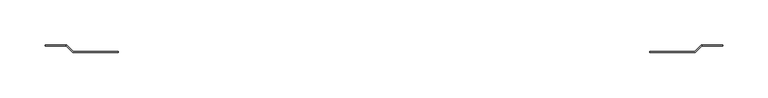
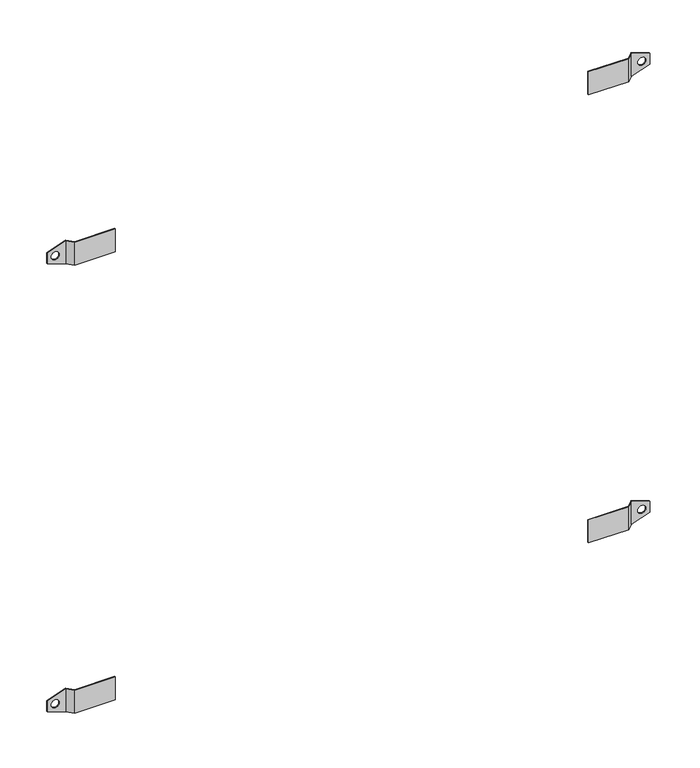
"""IFC4 building model written with IfcOpenShell, lengths in millimetres: electric distribution board geometry, DKC_Комплект кронштейнов для настенного крепления фиберглас : DKC_Комплект кронштейнов для настенного крепления фиберглас."""

from ifc_helpers import new_model, si_unit, frame, origin, place, context, project, spatial, polyline, circle_curve, source, transform, mapped, element, save
from ifc_brep_helpers import plane_surface, revolved_surface, advanced_brep


def electric_distribution_board_e5e5e27e(model_context):
    return source(origin(), model_context, "Body", "AdvancedBrep", [
        advanced_brep(
        [(342.5, 0.0, 0.0), (292.5, 0.0, 0.0), (292.5, 1.0, 0.0), (342.0857864, 1.0, 0.0), (349.1568542, 8.0710678, 0.0), (349.5710678, 8.0710678, 0.0), (349.5710678, 7.0710678, 0.0), (342.5, 0.0, 30.0), (349.5710678, 7.0710678, 30.0), (349.5710678, 8.0710678, 30.0), (349.1568542, 8.0710678, 30.0), (342.0857864, 1.0, 30.0), (292.5, 1.0, 30.0), (292.5, 0.0, 30.0), (372.5, 8.0710678, 22.1049355), (372.5, 8.0710678, 7.8950645), (362.5, 8.0710678, 20.0), (362.5, 8.0710678, 10.0), (372.5, 7.0710678, 22.1049355), (372.5, 7.0710678, 7.8950645), (362.5, 7.0710678, 10.0), (362.5, 7.0710678, 20.0)],
        [
            (0, 1),
            (1, 2),
            (2, 3),
            (3, 4),
            (4, 5),
            (5, 6),
            (6, 0),
            (7, 8),
            (8, 9),
            (9, 10),
            (10, 11),
            (11, 12),
            (12, 13),
            (13, 7),
            (0, 7),
            (13, 1),
            (12, 2),
            (11, 3),
            (10, 4),
            (9, 14),
            (14, 15),
            (15, 5),
            (16, 17, circle_curve(frame((362.5, 8.0710678, 15.0), z_axis=(0.0, -1.0, 0.0), x_axis=(0.0, 0.0, -1.0)), 5.0)),
            (17, 16, circle_curve(frame((362.5, 8.0710678, 15.0), z_axis=(0.0, -1.0, 0.0), x_axis=(0.0, 0.0, -1.0)), 5.0)),
            (14, 18),
            (18, 19),
            (19, 15),
            (8, 6),
            (6, 19),
            (18, 8),
            (20, 21, circle_curve(frame((362.5, 7.0710678, 15.0), z_axis=(0.0, 1.0, 0.0), x_axis=(0.0, 0.0, -1.0)), 5.0)),
            (21, 20, circle_curve(frame((362.5, 7.0710678, 15.0), z_axis=(0.0, 1.0, 0.0), x_axis=(0.0, 0.0, -1.0)), 5.0)),
            (16, 21),
            (20, 17),
        ],
        [
            plane_surface(frame((292.5, 0.0, 0.0), z_axis=(0.0, 0.0, -1.0), x_axis=(-1.0, 0.0, 0.0))),
            plane_surface(frame((292.5, 0.0, 30.0), z_axis=(0.0, 0.0, 1.0), x_axis=(1.0, 0.0, 0.0))),
            plane_surface(frame((342.5, 0.0, 0.0), z_axis=(0.0, -1.0, 0.0), x_axis=(0.0, 0.0, 1.0))),
            plane_surface(frame((292.5, 0.0, 0.0), z_axis=(-1.0, 0.0, 0.0), x_axis=(0.0, 0.0, 1.0))),
            plane_surface(frame((292.5, 1.0, 0.0), z_axis=(0.0, 1.0, 0.0), x_axis=(0.0, 0.0, 1.0))),
            plane_surface(frame((342.0857864, 1.0, 0.0), z_axis=(-0.7071067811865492, 0.7071067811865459, 0.0), x_axis=(0.0, 0.0, 1.0))),
            plane_surface(frame((349.1568542, 8.0710678, 0.0), z_axis=(0.0, 1.0, 0.0), x_axis=(0.0, 0.0, 1.0))),
            plane_surface(frame((372.5, 8.0710678, 0.0), z_axis=(1.0, 0.0, 0.0), x_axis=(0.0, 0.0, 1.0))),
            plane_surface(frame((372.5, 7.0710678, 0.0), z_axis=(0.0, -1.0, 0.0), x_axis=(0.0, 0.0, 1.0))),
            plane_surface(frame((349.5710678, 7.0710678, 0.0), z_axis=(0.7071067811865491, -0.707106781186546, 0.0), x_axis=(0.0, 0.0, 1.0))),
            revolved_surface(polyline([(362.5, 7.071067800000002, 10.0), (362.5, 8.071067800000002, 10.0)]), (362.5, 50.0, 15.0), (0.0, -1.0, 0.0)),
            plane_surface(frame((349.5710678, 0.0, 30.0), z_axis=(0.3255681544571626, 0.0, 0.9455185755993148), x_axis=(0.0, 1.0, 0.0))),
            plane_surface(frame((372.5, 0.0, 7.8950645), z_axis=(0.3255681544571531, 0.0, -0.9455185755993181), x_axis=(0.0, 1.0, 0.0))),
        ],
        [
            (0, [[1, 2, 3, 4, 5, 6, 7]]),
            (1, [[8, 9, 10, 11, 12, 13, 14]]),
            (2, [[-1, 15, -14, 16]]),
            (3, [[-2, -16, -13, 17]]),
            (4, [[-3, -17, -12, 18]]),
            (5, [[-4, -18, -11, 19]]),
            (6, [[-19, -10, 20, 21, 22, -5], [23, 24]]),
            (7, [[-21, 25, 26, 27]]),
            (8, [[28, 29, -26, 30], [31, 32]]),
            (9, [[-7, -28, -8, -15]]),
            (10, [[33, -31, 34, -23]]),
            (10, [[-33, -24, -34, -32]]),
            (11, [[-9, -30, -25, -20]]),
            (12, [[-6, -22, -27, -29]]),
        ],
    ),
        advanced_brep(
        [(-342.5, 0.0, 30.0), (-292.5, 0.0, 30.0), (-292.5, 1.0, 30.0), (-342.0857864, 1.0, 30.0), (-349.1568542, 8.0710678, 30.0), (-349.5710678, 8.0710678, 30.0), (-349.5710678, 7.0710678, 30.0), (-342.5, 0.0, 0.0), (-349.5710678, 7.0710678, 0.0), (-349.5710678, 8.0710678, 0.0), (-349.1568542, 8.0710678, 0.0), (-342.0857864, 1.0, 0.0), (-292.5, 1.0, 0.0), (-292.5, 0.0, 0.0), (-372.5, 8.0710678, 7.8950645), (-372.5, 8.0710678, 22.1049355), (-362.5, 8.0710678, 10.0), (-362.5, 8.0710678, 20.0), (-372.5, 7.0710678, 7.8950645), (-372.5, 7.0710678, 22.1049355), (-362.5, 7.0710678, 20.0), (-362.5, 7.0710678, 10.0)],
        [
            (0, 1),
            (1, 2),
            (2, 3),
            (3, 4),
            (4, 5),
            (5, 6),
            (6, 0),
            (7, 8),
            (8, 9),
            (9, 10),
            (10, 11),
            (11, 12),
            (12, 13),
            (13, 7),
            (0, 7),
            (13, 1),
            (12, 2),
            (11, 3),
            (10, 4),
            (9, 14),
            (14, 15),
            (15, 5),
            (16, 17, circle_curve(frame((-362.5, 8.0710678, 15.0), z_axis=(0.0, -1.0, 0.0), x_axis=(0.0, 0.0, 1.0)), 5.0)),
            (17, 16, circle_curve(frame((-362.5, 8.0710678, 15.0), z_axis=(0.0, -1.0, 0.0), x_axis=(0.0, 0.0, 1.0)), 5.0)),
            (14, 18),
            (18, 19),
            (19, 15),
            (8, 6),
            (6, 19),
            (18, 8),
            (20, 21, circle_curve(frame((-362.5, 7.0710678, 15.0), z_axis=(0.0, 1.0, 0.0), x_axis=(0.0, 0.0, 1.0)), 5.0)),
            (21, 20, circle_curve(frame((-362.5, 7.0710678, 15.0), z_axis=(0.0, 1.0, 0.0), x_axis=(0.0, 0.0, 1.0)), 5.0)),
            (16, 21),
            (20, 17),
        ],
        [
            plane_surface(frame((-292.5, 0.0, 30.0), z_axis=(0.0, 0.0, 1.0), x_axis=(1.0, 0.0, 0.0))),
            plane_surface(frame((-292.5, 0.0, 0.0), z_axis=(0.0, 0.0, -1.0), x_axis=(-1.0, 0.0, 0.0))),
            plane_surface(frame((-342.5, 0.0, 30.0), z_axis=(0.0, -1.0, 0.0), x_axis=(0.0, 0.0, -1.0))),
            plane_surface(frame((-292.5, 0.0, 30.0), z_axis=(1.0, 0.0, 0.0), x_axis=(0.0, 0.0, -1.0))),
            plane_surface(frame((-292.5, 1.0, 30.0), z_axis=(0.0, 1.0, 0.0), x_axis=(0.0, 0.0, -1.0))),
            plane_surface(frame((-342.0857864, 1.0, 30.0), z_axis=(0.7071067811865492, 0.7071067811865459, 0.0), x_axis=(0.0, 0.0, -1.0))),
            plane_surface(frame((-349.1568542, 8.0710678, 30.0), z_axis=(0.0, 1.0, 0.0), x_axis=(0.0, 0.0, -1.0))),
            plane_surface(frame((-372.5, 8.0710678, 30.0), z_axis=(-1.0, 0.0, 0.0), x_axis=(0.0, 0.0, -1.0))),
            plane_surface(frame((-372.5, 7.0710678, 30.0), z_axis=(0.0, -1.0, 0.0), x_axis=(0.0, 0.0, -1.0))),
            plane_surface(frame((-349.5710678, 7.0710678, 30.0), z_axis=(-0.7071067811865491, -0.707106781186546, 0.0), x_axis=(0.0, 0.0, -1.0))),
            revolved_surface(polyline([(-362.5, 7.071067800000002, 20.0), (-362.5, 8.071067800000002, 20.0)]), (-362.5, 50.0, 15.0), (0.0, -1.0, 0.0)),
            plane_surface(frame((-349.5710678, 0.0, 0.0), z_axis=(-0.32556815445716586, 0.0, -0.9455185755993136), x_axis=(0.0, 1.0, 0.0))),
            plane_surface(frame((-372.5, 0.0, 22.1049355), z_axis=(-0.32556815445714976, 0.0, 0.9455185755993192), x_axis=(0.0, 1.0, 0.0))),
        ],
        [
            (0, [[1, 2, 3, 4, 5, 6, 7]]),
            (1, [[8, 9, 10, 11, 12, 13, 14]]),
            (2, [[-1, 15, -14, 16]]),
            (3, [[-2, -16, -13, 17]]),
            (4, [[-3, -17, -12, 18]]),
            (5, [[-4, -18, -11, 19]]),
            (6, [[-19, -10, 20, 21, 22, -5], [23, 24]]),
            (7, [[-21, 25, 26, 27]]),
            (8, [[28, 29, -26, 30], [31, 32]]),
            (9, [[-7, -28, -8, -15]]),
            (10, [[33, -31, 34, -23]]),
            (10, [[-33, -24, -34, -32]]),
            (11, [[-9, -30, -25, -20]]),
            (12, [[-6, -22, -27, -29]]),
        ],
    ),
        advanced_brep(
        [(-342.5, 0.0, 615.0), (-292.5, 0.0, 615.0), (-292.5, 1.0, 615.0), (-342.0857864, 1.0, 615.0), (-349.1568542, 8.0710678, 615.0), (-349.5710678, 8.0710678, 615.0), (-349.5710678, 7.0710678, 615.0), (-342.5, 0.0, 585.0), (-349.5710678, 7.0710678, 585.0), (-349.5710678, 8.0710678, 585.0), (-349.1568542, 8.0710678, 585.0), (-342.0857864, 1.0, 585.0), (-292.5, 1.0, 585.0), (-292.5, 0.0, 585.0), (-372.5, 8.0710678, 592.8950645), (-372.5, 8.0710678, 607.1049355), (-362.5, 8.0710678, 595.0), (-362.5, 8.0710678, 605.0), (-372.5, 7.0710678, 592.8950645), (-372.5, 7.0710678, 607.1049355), (-362.5, 7.0710678, 605.0), (-362.5, 7.0710678, 595.0)],
        [
            (0, 1),
            (1, 2),
            (2, 3),
            (3, 4),
            (4, 5),
            (5, 6),
            (6, 0),
            (7, 8),
            (8, 9),
            (9, 10),
            (10, 11),
            (11, 12),
            (12, 13),
            (13, 7),
            (0, 7),
            (13, 1),
            (12, 2),
            (11, 3),
            (10, 4),
            (9, 14),
            (14, 15),
            (15, 5),
            (16, 17, circle_curve(frame((-362.5, 8.0710678, 600.0), z_axis=(0.0, -1.0, 0.0), x_axis=(0.0, 0.0, 1.0)), 5.0)),
            (17, 16, circle_curve(frame((-362.5, 8.0710678, 600.0), z_axis=(0.0, -1.0, 0.0), x_axis=(0.0, 0.0, 1.0)), 5.0)),
            (14, 18),
            (18, 19),
            (19, 15),
            (8, 6),
            (6, 19),
            (18, 8),
            (20, 21, circle_curve(frame((-362.5, 7.0710678, 600.0), z_axis=(0.0, 1.0, 0.0), x_axis=(0.0, 0.0, 1.0)), 5.0)),
            (21, 20, circle_curve(frame((-362.5, 7.0710678, 600.0), z_axis=(0.0, 1.0, 0.0), x_axis=(0.0, 0.0, 1.0)), 5.0)),
            (16, 21),
            (20, 17),
        ],
        [
            plane_surface(frame((-292.5, 0.0, 615.0), z_axis=(0.0, 0.0, 1.0), x_axis=(1.0, 0.0, 0.0))),
            plane_surface(frame((-292.5, 0.0, 585.0), z_axis=(0.0, 0.0, -1.0), x_axis=(-1.0, 0.0, 0.0))),
            plane_surface(frame((-342.5, 0.0, 615.0), z_axis=(0.0, -1.0, 0.0), x_axis=(0.0, 0.0, -1.0))),
            plane_surface(frame((-292.5, 0.0, 615.0), z_axis=(1.0, 0.0, 0.0), x_axis=(0.0, 0.0, -1.0))),
            plane_surface(frame((-292.5, 1.0, 615.0), z_axis=(0.0, 1.0, 0.0), x_axis=(0.0, 0.0, -1.0))),
            plane_surface(frame((-342.0857864, 1.0, 615.0), z_axis=(0.7071067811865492, 0.7071067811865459, 0.0), x_axis=(0.0, 0.0, -1.0))),
            plane_surface(frame((-349.1568542, 8.0710678, 615.0), z_axis=(0.0, 1.0, 0.0), x_axis=(0.0, 0.0, -1.0))),
            plane_surface(frame((-372.5, 8.0710678, 615.0), z_axis=(-1.0, 0.0, 0.0), x_axis=(0.0, 0.0, -1.0))),
            plane_surface(frame((-372.5, 7.0710678, 615.0), z_axis=(0.0, -1.0, 0.0), x_axis=(0.0, 0.0, -1.0))),
            plane_surface(frame((-349.5710678, 7.0710678, 615.0), z_axis=(-0.7071067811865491, -0.707106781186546, 0.0), x_axis=(0.0, 0.0, -1.0))),
            revolved_surface(polyline([(-362.5, 7.071067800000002, 605.0), (-362.5, 8.071067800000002, 605.0)]), (-362.5, 50.0, 600.0), (0.0, -1.0, 0.0)),
            plane_surface(frame((-349.5710678, 0.0, 585.0), z_axis=(-0.3255681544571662, 0.0, -0.9455185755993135), x_axis=(0.0, 1.0, 0.0))),
            plane_surface(frame((-372.5, 0.0, 607.1049355), z_axis=(-0.32556815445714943, 0.0, 0.9455185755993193), x_axis=(0.0, 1.0, 0.0))),
        ],
        [
            (0, [[1, 2, 3, 4, 5, 6, 7]]),
            (1, [[8, 9, 10, 11, 12, 13, 14]]),
            (2, [[-1, 15, -14, 16]]),
            (3, [[-2, -16, -13, 17]]),
            (4, [[-3, -17, -12, 18]]),
            (5, [[-4, -18, -11, 19]]),
            (6, [[-19, -10, 20, 21, 22, -5], [23, 24]]),
            (7, [[-21, 25, 26, 27]]),
            (8, [[28, 29, -26, 30], [31, 32]]),
            (9, [[-7, -28, -8, -15]]),
            (10, [[33, -31, 34, -23]]),
            (10, [[-33, -24, -34, -32]]),
            (11, [[-9, -30, -25, -20]]),
            (12, [[-6, -22, -27, -29]]),
        ],
    ),
        advanced_brep(
        [(342.5, 0.0, 585.0), (292.5, 0.0, 585.0), (292.5, 1.0, 585.0), (342.0857864, 1.0, 585.0), (349.1568542, 8.0710678, 585.0), (349.5710678, 8.0710678, 585.0), (349.5710678, 7.0710678, 585.0), (342.5, 0.0, 615.0), (349.5710678, 7.0710678, 615.0), (349.5710678, 8.0710678, 615.0), (349.1568542, 8.0710678, 615.0), (342.0857864, 1.0, 615.0), (292.5, 1.0, 615.0), (292.5, 0.0, 615.0), (372.5, 8.0710678, 607.1049355), (372.5, 8.0710678, 592.8950645), (362.5, 8.0710678, 605.0), (362.5, 8.0710678, 595.0), (372.5, 7.0710678, 607.1049355), (372.5, 7.0710678, 592.8950645), (362.5, 7.0710678, 595.0), (362.5, 7.0710678, 605.0)],
        [
            (0, 1),
            (1, 2),
            (2, 3),
            (3, 4),
            (4, 5),
            (5, 6),
            (6, 0),
            (7, 8),
            (8, 9),
            (9, 10),
            (10, 11),
            (11, 12),
            (12, 13),
            (13, 7),
            (0, 7),
            (13, 1),
            (12, 2),
            (11, 3),
            (10, 4),
            (9, 14),
            (14, 15),
            (15, 5),
            (16, 17, circle_curve(frame((362.5, 8.0710678, 600.0), z_axis=(0.0, -1.0, 0.0), x_axis=(0.0, 0.0, -1.0)), 5.0)),
            (17, 16, circle_curve(frame((362.5, 8.0710678, 600.0), z_axis=(0.0, -1.0, 0.0), x_axis=(0.0, 0.0, -1.0)), 5.0)),
            (14, 18),
            (18, 19),
            (19, 15),
            (8, 6),
            (6, 19),
            (18, 8),
            (20, 21, circle_curve(frame((362.5, 7.0710678, 600.0), z_axis=(0.0, 1.0, 0.0), x_axis=(0.0, 0.0, -1.0)), 5.0)),
            (21, 20, circle_curve(frame((362.5, 7.0710678, 600.0), z_axis=(0.0, 1.0, 0.0), x_axis=(0.0, 0.0, -1.0)), 5.0)),
            (16, 21),
            (20, 17),
        ],
        [
            plane_surface(frame((292.5, 0.0, 585.0), z_axis=(0.0, 0.0, -1.0), x_axis=(-1.0, 0.0, 0.0))),
            plane_surface(frame((292.5, 0.0, 615.0), z_axis=(0.0, 0.0, 1.0), x_axis=(1.0, 0.0, 0.0))),
            plane_surface(frame((342.5, 0.0, 585.0), z_axis=(0.0, -1.0, 0.0), x_axis=(0.0, 0.0, 1.0))),
            plane_surface(frame((292.5, 0.0, 585.0), z_axis=(-1.0, 0.0, 0.0), x_axis=(0.0, 0.0, 1.0))),
            plane_surface(frame((292.5, 1.0, 585.0), z_axis=(0.0, 1.0, 0.0), x_axis=(0.0, 0.0, 1.0))),
            plane_surface(frame((342.0857864, 1.0, 585.0), z_axis=(-0.7071067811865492, 0.7071067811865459, 0.0), x_axis=(0.0, 0.0, 1.0))),
            plane_surface(frame((349.1568542, 8.0710678, 585.0), z_axis=(0.0, 1.0, 0.0), x_axis=(0.0, 0.0, 1.0))),
            plane_surface(frame((372.5, 8.0710678, 585.0), z_axis=(1.0, 0.0, 0.0), x_axis=(0.0, 0.0, 1.0))),
            plane_surface(frame((372.5, 7.0710678, 585.0), z_axis=(0.0, -1.0, 0.0), x_axis=(0.0, 0.0, 1.0))),
            plane_surface(frame((349.5710678, 7.0710678, 585.0), z_axis=(0.7071067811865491, -0.707106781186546, 0.0), x_axis=(0.0, 0.0, 1.0))),
            revolved_surface(polyline([(362.5, 7.071067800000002, 595.0), (362.5, 8.071067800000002, 595.0)]), (362.5, 50.0, 600.0), (0.0, -1.0, 0.0)),
            plane_surface(frame((349.5710678, 0.0, 615.0), z_axis=(0.32556815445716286, 0.0, 0.9455185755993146), x_axis=(0.0, 1.0, 0.0))),
            plane_surface(frame((372.5, 0.0, 592.8950645), z_axis=(0.32556815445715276, 0.0, -0.9455185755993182), x_axis=(0.0, 1.0, 0.0))),
        ],
        [
            (0, [[1, 2, 3, 4, 5, 6, 7]]),
            (1, [[8, 9, 10, 11, 12, 13, 14]]),
            (2, [[-1, 15, -14, 16]]),
            (3, [[-2, -16, -13, 17]]),
            (4, [[-3, -17, -12, 18]]),
            (5, [[-4, -18, -11, 19]]),
            (6, [[-19, -10, 20, 21, 22, -5], [23, 24]]),
            (7, [[-21, 25, 26, 27]]),
            (8, [[28, 29, -26, 30], [31, 32]]),
            (9, [[-7, -28, -8, -15]]),
            (10, [[33, -31, 34, -23]]),
            (10, [[-33, -24, -34, -32]]),
            (11, [[-9, -30, -25, -20]]),
            (12, [[-6, -22, -27, -29]]),
        ],
    ),
    ])


if __name__ == "__main__":
    model = new_model("IFC4")
    model_context = context("Model", 3, world=origin())
    ifc_project = project(units=[si_unit("LENGTHUNIT", "METRE", prefix="MILLI")], contexts=[model_context])
    site = spatial("IfcSite", under=ifc_project)
    building = spatial("IfcBuilding", under=site)
    placement = place(None, origin())
    electric_distribution_board_shape = electric_distribution_board_e5e5e27e(model_context)
    element("IfcElectricDistributionBoard", 1, ObjectType="DKC_Комплект кронштейнов для настенного крепления фиберглас : DKC_Комплект кронштейнов для настенного крепления фиберглас", at=placement, inside=building, context=model_context, shape_type="MappedRepresentation", body=[
        mapped(electric_distribution_board_shape, transform((0.0, 0.0, 0.0), x_axis=(1.0, 0.0, 0.0), y_axis=(0.0, 1.0, 0.0), z_axis=(0.0, 0.0, 1.0))),
    ])
    save(model, "model.ifc")
